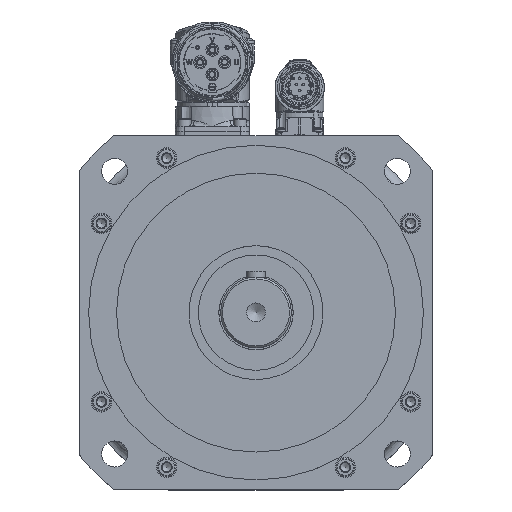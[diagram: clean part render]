
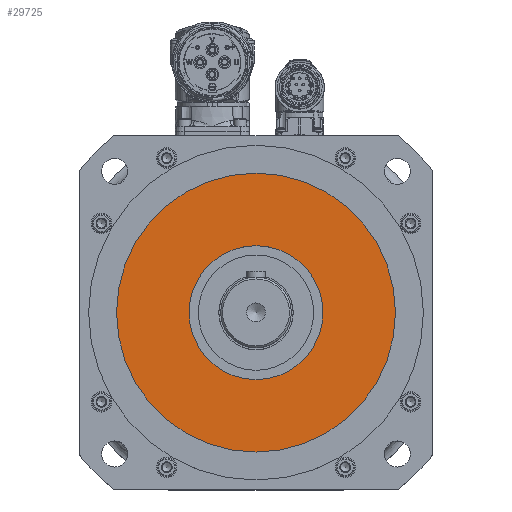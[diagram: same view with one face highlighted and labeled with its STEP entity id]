
A CAD part, top view. The second image highlights one B-rep face of the part: STEP entity #29725.
In plain terms, the highlighted planar face has unit normal (0, 0, 1).
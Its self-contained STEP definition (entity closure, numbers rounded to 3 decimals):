
#7188=FACE_BOUND('',#9691,.T.);
#7189=FACE_BOUND('',#9692,.T.);
#9691=EDGE_LOOP('',(#20649));
#9692=EDGE_LOOP('',(#20650));
#12142=CIRCLE('',#31661,36.);
#12143=CIRCLE('',#31664,75.);
#13526=VERTEX_POINT('',#42931);
#13527=VERTEX_POINT('',#42935);
#16473=EDGE_CURVE('',#13526,#13526,#12142,.T.);
#16474=EDGE_CURVE('',#13527,#13527,#12143,.T.);
#20649=ORIENTED_EDGE('',*,*,#16473,.T.);
#20650=ORIENTED_EDGE('',*,*,#16474,.F.);
#28904=PLANE('',#31666);
#29725=ADVANCED_FACE('',(#7188,#7189),#28904,.F.);
#31661=AXIS2_PLACEMENT_3D('',#42932,#34924,#34925);
#31664=AXIS2_PLACEMENT_3D('',#42936,#34930,#34931);
#31666=AXIS2_PLACEMENT_3D('',#42939,#34934,#34935);
#34924=DIRECTION('center_axis',(0.,0.,-1.));
#34925=DIRECTION('ref_axis',(-1.,0.,0.));
#34930=DIRECTION('center_axis',(0.,0.,-1.));
#34931=DIRECTION('ref_axis',(-1.,0.,0.));
#34934=DIRECTION('center_axis',(0.,0.,-1.));
#34935=DIRECTION('ref_axis',(-1.,0.,0.));
#42931=CARTESIAN_POINT('',(36.,0.,15.));
#42932=CARTESIAN_POINT('Origin',(0.,0.,15.));
#42935=CARTESIAN_POINT('',(75.,0.,15.));
#42936=CARTESIAN_POINT('Origin',(0.,0.,15.));
#42939=CARTESIAN_POINT('Origin',(0.,0.,15.));
